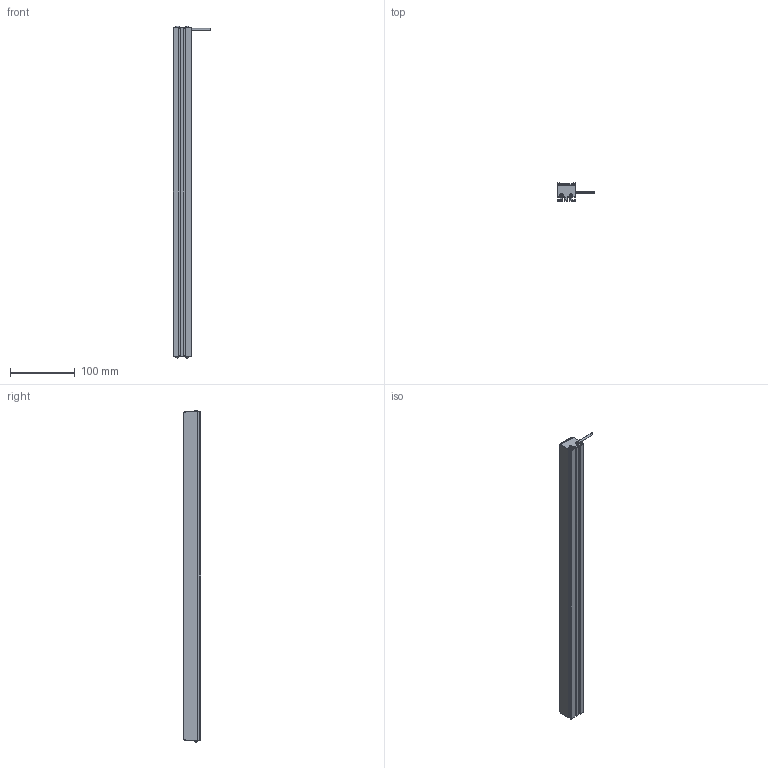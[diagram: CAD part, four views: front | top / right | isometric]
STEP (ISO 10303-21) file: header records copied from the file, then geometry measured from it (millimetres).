
FILE_DESCRIPTION((''),'2;1');
FILE_NAME('MV-LLDS-507-28_ASM','2020-12-30T',('Administrator'),(''),'PRO/ENGINEER BY PARAMETRIC TECHNOLOGY CORPORATION, 2010100','PRO/ENGINEER BY PARAMETRIC TECHNOLOGY CORPORATION, 2010100','');
FILE_SCHEMA(('CONFIG_CONTROL_DESIGN'));
Length unit declared in the file: millimetre
Products named in the file (3): BL-4_2_; M3-5_3; MV-LLDS-507-28_ASM
Assembly tree (5 placements, depth 2):
  MV-LLDS-507-28_ASM
    BL-4_2_
    M3-5_3  x4
Bounding box: 58 x 27 x 511.68 mm (x, y, z)
Volume: 317632.6 mm3; surface area: 118873 mm2
Topology: 5 solids, 13 shells, 303 faces, 802 edges, 516 vertices
Faces by surface type: plane 185, cylinder 70, cone 16, bspline 16, torus 8, sphere 8
Entity records: 6719 total; most frequent: CARTESIAN_POINT 1429, ORIENTED_EDGE 1074, DIRECTION 1070, EDGE_CURVE 547, VECTOR 398, LINE 398, VERTEX_POINT 357, AXIS2_PLACEMENT_3D 336
